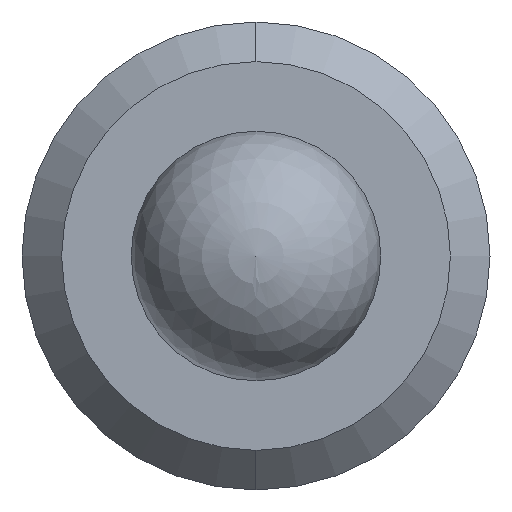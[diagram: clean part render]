
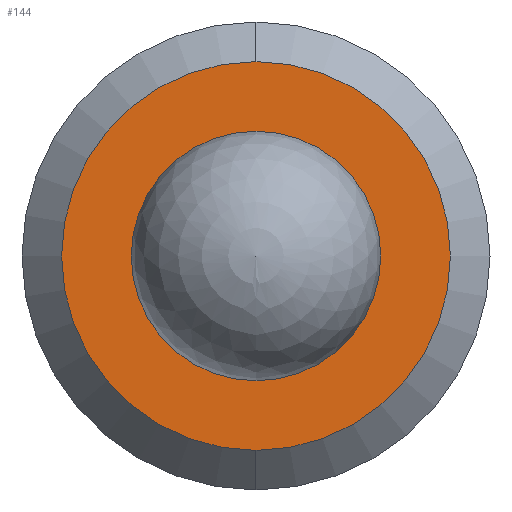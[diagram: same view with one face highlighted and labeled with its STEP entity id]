
A CAD part, left-side view. The second image highlights one B-rep face of the part: STEP entity #144.
In plain terms, the highlighted planar face has unit normal (-1, 0, 0).
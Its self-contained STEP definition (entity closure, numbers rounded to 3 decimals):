
#38 = CARTESIAN_POINT ( 'NONE',  ( 0., 0., 1.246 ) ) ;
#42 = VERTEX_POINT ( 'NONE', #38 ) ;
#84 = VERTEX_POINT ( 'NONE', #118 ) ;
#118 = CARTESIAN_POINT ( 'NONE',  ( 0., 0., 0.8 ) ) ;
#120 = DIRECTION ( 'NONE',  ( 0., 0., -1. ) ) ;
#123 = AXIS2_PLACEMENT_3D ( 'NONE', #186, #578, #552 ) ;
#134 = VERTEX_POINT ( 'NONE', #263 ) ;
#143 = EDGE_CURVE ( 'NONE', #516, #42, #486, .T. ) ;
#144 = ADVANCED_FACE ( 'NONE', ( #458, #573 ), #249, .F. ) ;
#181 = AXIS2_PLACEMENT_3D ( 'NONE', #409, #492, #606 ) ;
#184 = AXIS2_PLACEMENT_3D ( 'NONE', #284, #282, #120 ) ;
#186 = CARTESIAN_POINT ( 'NONE',  ( 0., 0., 0. ) ) ;
#212 = CIRCLE ( 'NONE', #181, 0.8 ) ;
#235 = CIRCLE ( 'NONE', #184, 1.246 ) ;
#249 = PLANE ( 'NONE',  #261 ) ;
#251 = CARTESIAN_POINT ( 'NONE',  ( 0., 0., -1.246 ) ) ;
#261 = AXIS2_PLACEMENT_3D ( 'NONE', #273, #294, #297 ) ;
#262 = EDGE_LOOP ( 'NONE', ( #551, #511 ) ) ;
#263 = CARTESIAN_POINT ( 'NONE',  ( 0., 0., -0.8 ) ) ;
#273 = CARTESIAN_POINT ( 'NONE',  ( 0., 0., 0. ) ) ;
#278 = AXIS2_PLACEMENT_3D ( 'NONE', #288, #290, #293 ) ;
#282 = DIRECTION ( 'NONE',  ( -1., 0., 0. ) ) ;
#284 = CARTESIAN_POINT ( 'NONE',  ( 0., 0., 0. ) ) ;
#288 = CARTESIAN_POINT ( 'NONE',  ( 0., 0., 0. ) ) ;
#290 = DIRECTION ( 'NONE',  ( -1., 0., 0. ) ) ;
#293 = DIRECTION ( 'NONE',  ( 0., 0., -1. ) ) ;
#294 = DIRECTION ( 'NONE',  ( 1., 0., 0. ) ) ;
#297 = DIRECTION ( 'NONE',  ( 0., 0., -1. ) ) ;
#306 = EDGE_LOOP ( 'NONE', ( #497, #345 ) ) ;
#345 = ORIENTED_EDGE ( 'NONE', *, *, #353, .T. ) ;
#353 = EDGE_CURVE ( 'NONE', #42, #516, #235, .T. ) ;
#364 = EDGE_CURVE ( 'NONE', #134, #84, #212, .T. ) ;
#392 = CIRCLE ( 'NONE', #123, 0.8 ) ;
#401 = EDGE_CURVE ( 'NONE', #84, #134, #392, .T. ) ;
#409 = CARTESIAN_POINT ( 'NONE',  ( 0., 0., 0. ) ) ;
#458 = FACE_BOUND ( 'NONE', #262, .T. ) ;
#486 = CIRCLE ( 'NONE', #278, 1.246 ) ;
#492 = DIRECTION ( 'NONE',  ( -1., 0., 0. ) ) ;
#497 = ORIENTED_EDGE ( 'NONE', *, *, #143, .T. ) ;
#511 = ORIENTED_EDGE ( 'NONE', *, *, #364, .F. ) ;
#516 = VERTEX_POINT ( 'NONE', #251 ) ;
#551 = ORIENTED_EDGE ( 'NONE', *, *, #401, .F. ) ;
#552 = DIRECTION ( 'NONE',  ( 0., 0., 1. ) ) ;
#573 = FACE_OUTER_BOUND ( 'NONE', #306, .T. ) ;
#578 = DIRECTION ( 'NONE',  ( -1., 0., 0. ) ) ;
#606 = DIRECTION ( 'NONE',  ( 0., 0., 1. ) ) ;
